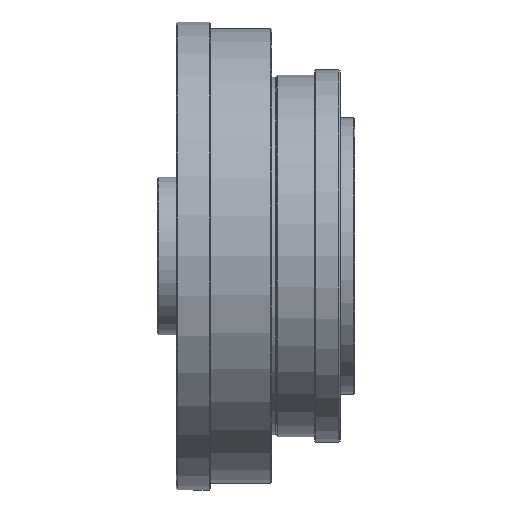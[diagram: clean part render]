
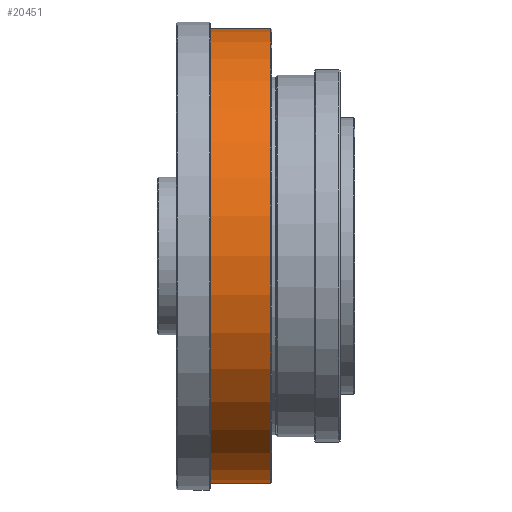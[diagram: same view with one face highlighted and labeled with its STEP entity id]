
A CAD part, top view. The second image highlights one B-rep face of the part: STEP entity #20451.
In plain terms, the highlighted cylindrical face has radius 107 mm (diameter 214 mm), a partial arc.
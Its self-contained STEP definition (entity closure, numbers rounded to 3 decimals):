
#1917 = EDGE_CURVE ( 'NONE', #18788, #27338, #9984, .T. ) ;
#1989 = VERTEX_POINT ( 'NONE', #10364 ) ;
#2570 = CIRCLE ( 'NONE', #19319, 107. ) ;
#2759 = EDGE_CURVE ( 'NONE', #1989, #27338, #2570, .T. ) ;
#2803 = DIRECTION ( 'NONE',  ( -1., 0., 0. ) ) ;
#3279 = CARTESIAN_POINT ( 'NONE',  ( 44.5, 0., 0. ) ) ;
#3546 = CARTESIAN_POINT ( 'NONE',  ( 11.5, 0., 0. ) ) ;
#4339 = CARTESIAN_POINT ( 'NONE',  ( 44.5, 107., 0. ) ) ;
#4630 = DIRECTION ( 'NONE',  ( -1., 0., 0. ) ) ;
#7369 = AXIS2_PLACEMENT_3D ( 'NONE', #3279, #13920, #22551 ) ;
#7926 = EDGE_CURVE ( 'NONE', #18788, #21633, #8608, .T. ) ;
#8035 = DIRECTION ( 'NONE',  ( 0., -1., 0. ) ) ;
#8154 = AXIS2_PLACEMENT_3D ( 'NONE', #21767, #21680, #23941 ) ;
#8608 = CIRCLE ( 'NONE', #7369, 107. ) ;
#9276 = VECTOR ( 'NONE', #4630, 1000. ) ;
#9723 = LINE ( 'NONE', #16222, #15668 ) ;
#9984 = LINE ( 'NONE', #18036, #9276 ) ;
#10364 = CARTESIAN_POINT ( 'NONE',  ( 11.5, 107., 0. ) ) ;
#11424 = CARTESIAN_POINT ( 'NONE',  ( 44.5, -107., 0. ) ) ;
#13918 = ORIENTED_EDGE ( 'NONE', *, *, #2759, .T. ) ;
#13920 = DIRECTION ( 'NONE',  ( -1., 0., 0. ) ) ;
#14264 = ORIENTED_EDGE ( 'NONE', *, *, #26848, .T. ) ;
#15361 = ORIENTED_EDGE ( 'NONE', *, *, #7926, .T. ) ;
#15668 = VECTOR ( 'NONE', #2803, 1000. ) ;
#16222 = CARTESIAN_POINT ( 'NONE',  ( 0., 107., 0. ) ) ;
#18036 = CARTESIAN_POINT ( 'NONE',  ( 0., -107., 0. ) ) ;
#18571 = ORIENTED_EDGE ( 'NONE', *, *, #1917, .F. ) ;
#18788 = VERTEX_POINT ( 'NONE', #11424 ) ;
#19319 = AXIS2_PLACEMENT_3D ( 'NONE', #3546, #28397, #8035 ) ;
#20451 = ADVANCED_FACE ( 'NONE', ( #28777 ), #27393, .T. ) ;
#21633 = VERTEX_POINT ( 'NONE', #4339 ) ;
#21680 = DIRECTION ( 'NONE',  ( -1., 0., 0. ) ) ;
#21767 = CARTESIAN_POINT ( 'NONE',  ( 0., 0., 0. ) ) ;
#22216 = EDGE_LOOP ( 'NONE', ( #15361, #14264, #13918, #18571 ) ) ;
#22551 = DIRECTION ( 'NONE',  ( 0., 1., 0. ) ) ;
#23941 = DIRECTION ( 'NONE',  ( 0., -1., 0. ) ) ;
#26178 = CARTESIAN_POINT ( 'NONE',  ( 11.5, -107., 0. ) ) ;
#26848 = EDGE_CURVE ( 'NONE', #21633, #1989, #9723, .T. ) ;
#27338 = VERTEX_POINT ( 'NONE', #26178 ) ;
#27393 = CYLINDRICAL_SURFACE ( 'NONE', #8154, 107. ) ;
#28397 = DIRECTION ( 'NONE',  ( 1., 0., 0. ) ) ;
#28777 = FACE_OUTER_BOUND ( 'NONE', #22216, .T. ) ;
